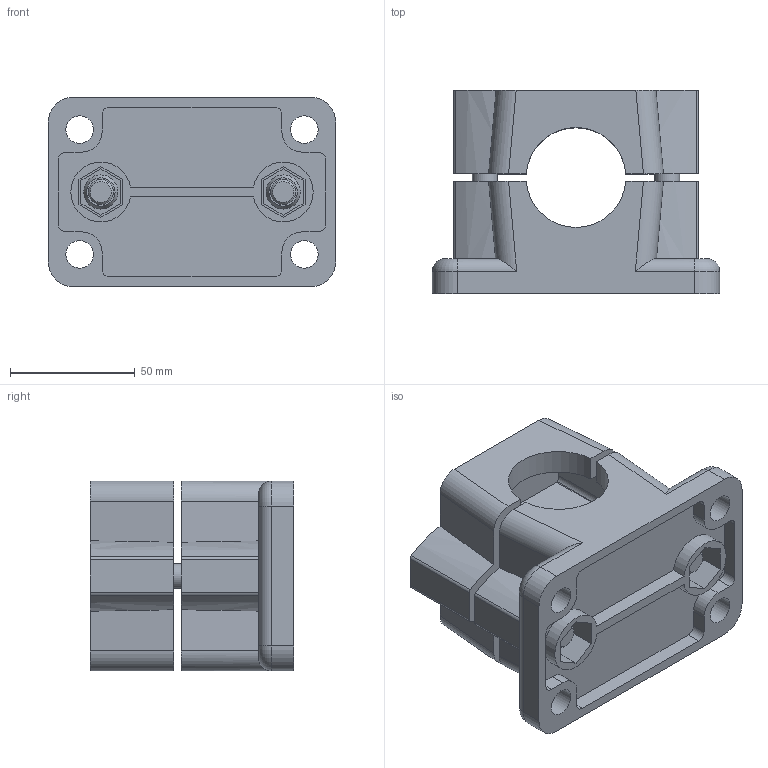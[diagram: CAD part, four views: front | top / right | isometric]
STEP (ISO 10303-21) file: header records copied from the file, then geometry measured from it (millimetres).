
FILE_DESCRIPTION( ( 'STEP AP203' ), '1' );
FILE_NAME( 'C:/Temp/Ganter_Step_05_03_2020/data/3_7/147/Flanged connector clamp GN 147-B40-2-BL.stp', '2020-03-12T14:20:30', ( 'License CC BY-ND 4.0' ), ( 'CADENAS' ), ' ', 'PARTsolutions', ' ' );
FILE_SCHEMA( ( 'CONFIG_CONTROL_DESIGN' ) );
Length unit declared in the file: millimetre
Products named in the file (1): _Flanged connector clamp GN 147-B40-2-BL
Bounding box: 115 x 81.5 x 76 mm (x, y, z)
Volume: 243017.3 mm3; surface area: 82172 mm2
Topology: 1 solids, 1 shells, 224 faces, 598 edges, 398 vertices
Faces by surface type: plane 125, cylinder 89, torus 6, cone 4
Full cylindrical faces by diameter (mm): 10 x4, 10.5 x4, 11 x4, 16 x2
Entity records: 6970 total; most frequent: CARTESIAN_POINT 1265, DIRECTION 1208, ORIENTED_EDGE 1136, EDGE_CURVE 568, AXIS2_PLACEMENT_3D 419, VERTEX_POINT 388, LINE 370, VECTOR 370
